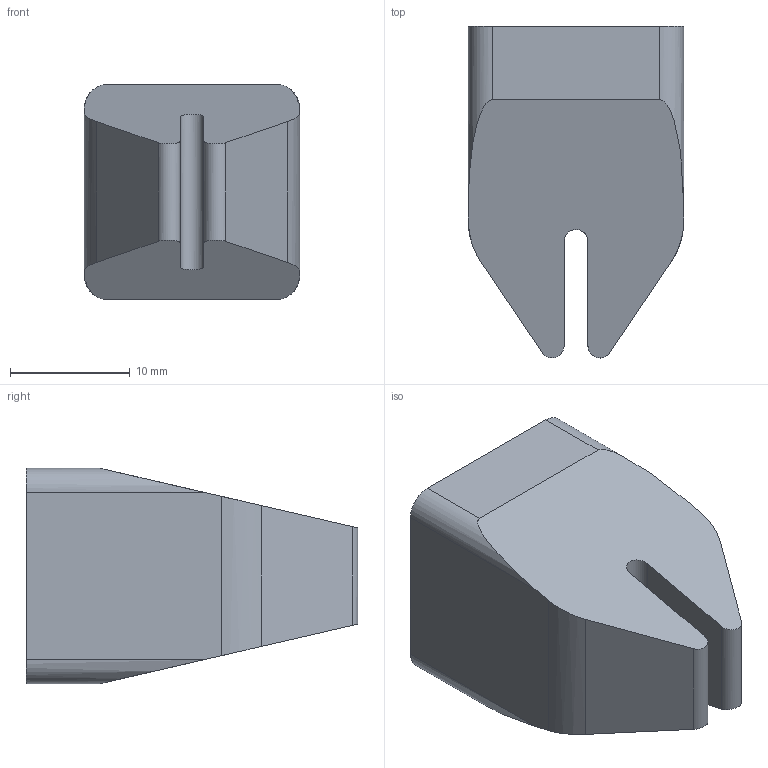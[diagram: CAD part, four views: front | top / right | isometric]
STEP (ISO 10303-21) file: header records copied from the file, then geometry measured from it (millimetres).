
FILE_DESCRIPTION (( 'STEP AP214' ), '1' );
FILE_NAME ('B-2B.STEP', '2019-12-04T08:19:19', ( '微软用户' ), ( '微软中国' ), 'SwSTEP 2.0', 'SolidWorks 2016', '' );
FILE_SCHEMA (( 'AUTOMOTIVE_DESIGN' ));
Length unit declared in the file: millimetre
Products named in the file (1): B-2B
Bounding box: 18 x 27.73 x 18 mm (x, y, z)
Volume: 5610.5 mm3; surface area: 2573.3 mm2
Topology: 1 solids, 1 shells, 26 faces, 66 edges, 44 vertices
Faces by surface type: plane 13, cylinder 13
Entity records: 1154 total; most frequent: CARTESIAN_POINT 227, ORIENTED_EDGE 132, DIRECTION 118, EDGE_CURVE 66, VERTEX_POINT 44, VECTOR 40, LINE 40, AXIS2_PLACEMENT_3D 39
